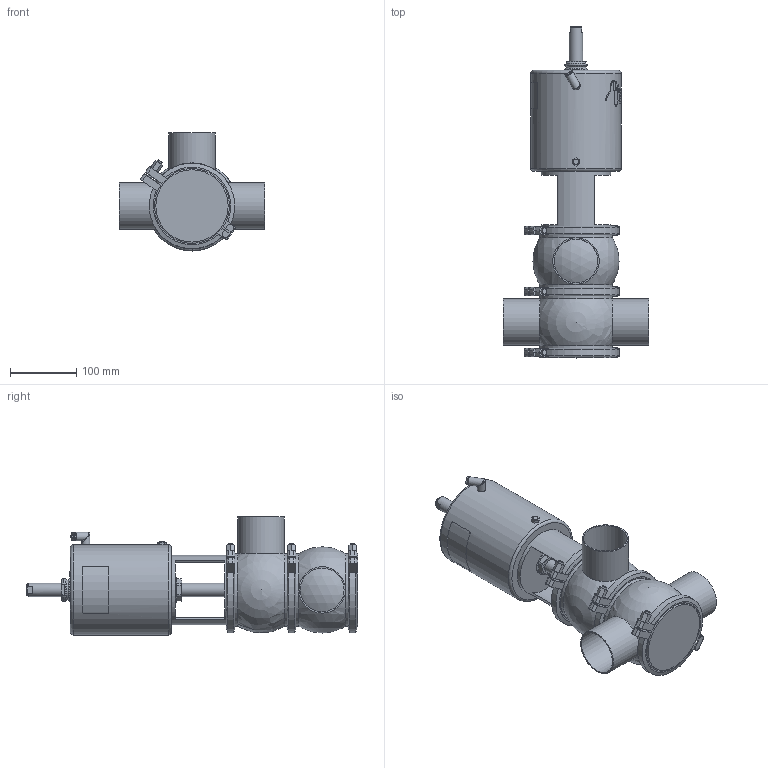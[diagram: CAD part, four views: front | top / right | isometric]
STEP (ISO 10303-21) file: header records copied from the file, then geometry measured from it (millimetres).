
FILE_DESCRIPTION (( 'STEP AP214' ), '1' );
FILE_NAME ('INNOVA M B W DIN 065 T3 AS NC_10.241.16.0004.STEP', '2024-08-07T13:06:53', ( '' ), ( '' ), 'SwSTEP 2.0', 'SolidWorks 2023', '' );
FILE_SCHEMA (( 'AUTOMOTIVE_DESIGN' ));
Length unit declared in the file: millimetre
Products named in the file (7): 10.240.15.0010_DN 065; 10.240.15.0006_DIN 065; 10.241.15.0001_DIN 065; INNOVA M B W DIN 065 T3 AS NC_10.241.16.0004; 10.240.15.0001_DN 065; 10.240.15.0014_T3 AS P180; 10.240.15.0007_DIN 065
Assembly tree (8 placements, depth 2):
  INNOVA M B W DIN 065 T3 AS NC_10.241.16.0004
    10.240.15.0006_DIN 065
    10.240.15.0007_DIN 065
    10.240.15.0010_DN 065
    10.240.15.0014_T3 AS P180
    10.240.15.0001_DN 065  x3
    10.241.15.0001_DIN 065
Bounding box: 220 x 500.5 x 178 mm (x, y, z)
Volume: 4806626 mm3; surface area: 453109.9 mm2
Topology: 9 solids, 9 shells, 466 faces, 1221 edges, 797 vertices
Faces by surface type: plane 229, cylinder 112, bspline 80, cone 36, sphere 5, torus 4
Full cylindrical faces by diameter (mm): 6.15 x1, 8 x7, 8.5 x1, 10.5 x1, 12.5 x3, 16 x1, 20 x2, 31 x1, 34.5 x2, 36.5 x1, 66 x3, 70 x3, 105 x1, 109 x5, 121 x6, 136 x1
Entity records: 20795 total; most frequent: CARTESIAN_POINT 11329, ORIENTED_EDGE 1630, DIRECTION 1283, EDGE_CURVE 815, VERTEX_POINT 566, AXIS2_PLACEMENT_3D 497, EDGE_LOOP 437, FACE_OUTER_BOUND 389
